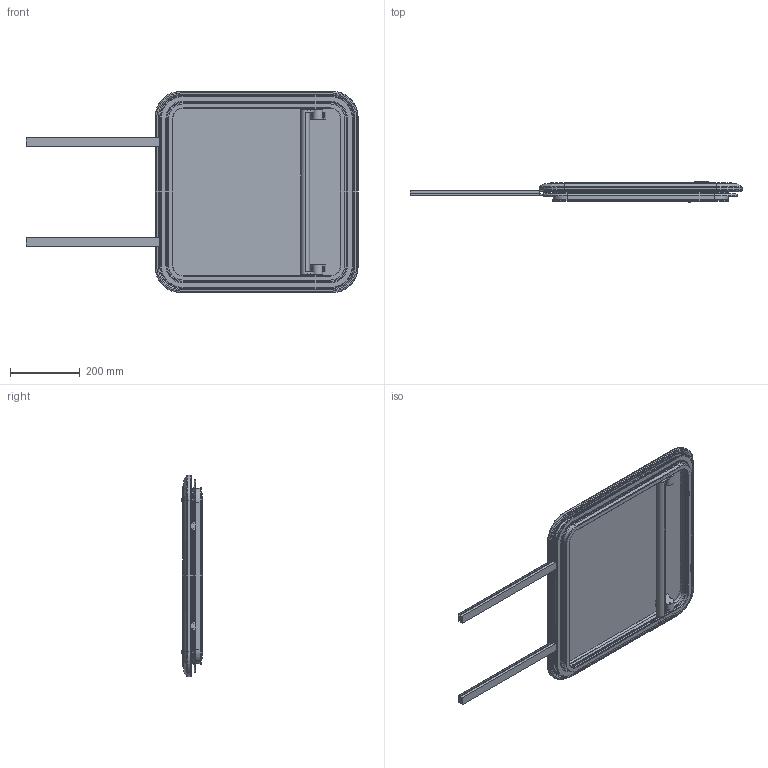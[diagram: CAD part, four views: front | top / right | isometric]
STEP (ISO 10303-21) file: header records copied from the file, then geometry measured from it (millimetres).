
FILE_DESCRIPTION((''),'2;1');
FILE_NAME('LEWMAR-HATCH-PILOT-60_ASM','2008-02-28T',('skennedy'),(''),'PRO/ENGINEER BY PARAMETRIC TECHNOLOGY CORPORATION, 2007030','PRO/ENGINEER BY PARAMETRIC TECHNOLOGY CORPORATION, 2007030','');
FILE_SCHEMA(('CONFIG_CONTROL_DESIGN'));
Length unit declared in the file: millimetre
Products named in the file (5): FRAME_60; PILOT_60_LOWER; 30071409; PILOT_HANDLE_60; LEWMAR-HATCH-PILOT-60_ASM
Assembly tree (4 placements, depth 2):
  LEWMAR-HATCH-PILOT-60_ASM
    FRAME_60
    PILOT_60_LOWER
    30071409
    PILOT_HANDLE_60
Bounding box: 951.58 x 57.8 x 577 mm (x, y, z)
Volume: 3992576.3 mm3; surface area: 1504421.4 mm2
Topology: 3 solids, 6 shells, 983 faces, 2358 edges, 1412 vertices
Faces by surface type: plane 349, cylinder 310, bspline 192, torus 84, cone 40, sphere 8
Entity records: 34227 total; most frequent: CARTESIAN_POINT 11792, ORIENTED_EDGE 4716, DIRECTION 4534, EDGE_CURVE 2358, AXIS2_PLACEMENT_3D 1620, VERTEX_POINT 1412, VECTOR 1294, LINE 1294
